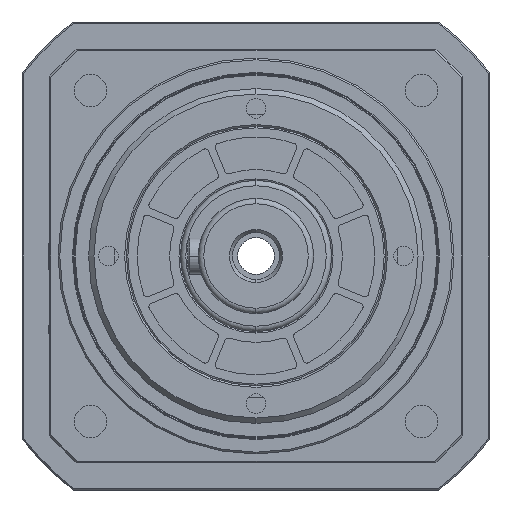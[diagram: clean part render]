
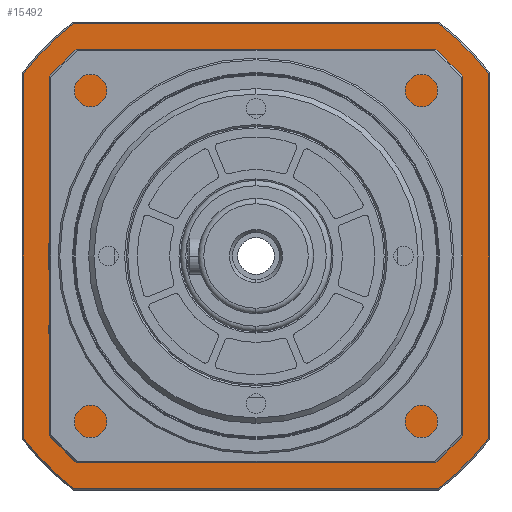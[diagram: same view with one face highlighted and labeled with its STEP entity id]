
A CAD part, left-side view. The second image highlights one B-rep face of the part: STEP entity #15492.
In plain terms, the highlighted planar face has unit normal (-1, 0, 0).
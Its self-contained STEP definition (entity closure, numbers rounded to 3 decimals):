
#59 = DIRECTION ( 'NONE',  ( 0., 0., -1. ) ) ;
#71 = CARTESIAN_POINT ( 'NONE',  ( 136., 0., 0. ) ) ;
#72 = DIRECTION ( 'NONE',  ( -1., 0., 0. ) ) ;
#73 = DIRECTION ( 'NONE',  ( 0., 0., -1. ) ) ;
#101 = CARTESIAN_POINT ( 'NONE',  ( 136., 0., 0. ) ) ;
#102 = DIRECTION ( 'NONE',  ( -1., 0., 0. ) ) ;
#402 = AXIS2_PLACEMENT_3D ( 'NONE', #9463, #9468, #9470 ) ;
#516 = AXIS2_PLACEMENT_3D ( 'NONE', #11625, #11623, #11649 ) ;
#650 = AXIS2_PLACEMENT_3D ( 'NONE', #71, #72, #73 ) ;
#669 = AXIS2_PLACEMENT_3D ( 'NONE', #101, #102, #59 ) ;
#802 = VECTOR ( 'NONE', #9475, 1000. ) ;
#806 = LINE ( 'NONE', #9480, #802 ) ;
#912 = CIRCLE ( 'NONE', #402, 82.1 ) ;
#2103 = DIRECTION ( 'NONE',  ( 0., -1., 0. ) ) ;
#2116 = CARTESIAN_POINT ( 'NONE',  ( 136., 39., -64.6 ) ) ;
#2375 = DIRECTION ( 'NONE',  ( 0., 0., -1. ) ) ;
#2376 = DIRECTION ( 'NONE',  ( 1., 0., 0. ) ) ;
#2377 = CARTESIAN_POINT ( 'NONE',  ( 136., 0., 0. ) ) ;
#2378 = DIRECTION ( 'NONE',  ( 0., 0., -1. ) ) ;
#2379 = CARTESIAN_POINT ( 'NONE',  ( 136., 64.6, 0. ) ) ;
#2393 = CARTESIAN_POINT ( 'NONE',  ( 136., 0., 0. ) ) ;
#2395 = DIRECTION ( 'NONE',  ( -1., 0., 0. ) ) ;
#2396 = DIRECTION ( 'NONE',  ( 0., 0., -1. ) ) ;
#3092 = AXIS2_PLACEMENT_3D ( 'NONE', #12491, #12493, #12492 ) ;
#3989 = ORIENTED_EDGE ( 'NONE', *, *, #12900, .T. ) ;
#3990 = ORIENTED_EDGE ( 'NONE', *, *, #13183, .T. ) ;
#4489 = ORIENTED_EDGE ( 'NONE', *, *, #9265, .T. ) ;
#4655 = ORIENTED_EDGE ( 'NONE', *, *, #12899, .T. ) ;
#4666 = ORIENTED_EDGE ( 'NONE', *, *, #9186, .T. ) ;
#4667 = ORIENTED_EDGE ( 'NONE', *, *, #12651, .T. ) ;
#4675 = ORIENTED_EDGE ( 'NONE', *, *, #13186, .T. ) ;
#4677 = ORIENTED_EDGE ( 'NONE', *, *, #9594, .T. ) ;
#4710 = ORIENTED_EDGE ( 'NONE', *, *, #9187, .T. ) ;
#4712 = ORIENTED_EDGE ( 'NONE', *, *, #9190, .T. ) ;
#5553 = EDGE_LOOP ( 'NONE', ( #4710, #4667 ) ) ;
#5755 = EDGE_LOOP ( 'NONE', ( #4666, #4712, #4489, #4655, #4677, #4675, #3989, #3990 ) ) ;
#7359 = AXIS2_PLACEMENT_3D ( 'NONE', #2393, #2395, #2396 ) ;
#7360 = AXIS2_PLACEMENT_3D ( 'NONE', #2377, #2376, #2375 ) ;
#7498 = CIRCLE ( 'NONE', #669, 82.1 ) ;
#7500 = CIRCLE ( 'NONE', #650, 82.1 ) ;
#7661 = FACE_OUTER_BOUND ( 'NONE', #5755, .T. ) ;
#8087 = FACE_BOUND ( 'NONE', #5553, .T. ) ;
#8297 = LINE ( 'NONE', #12166, #8299 ) ;
#8299 = VECTOR ( 'NONE', #12165, 1000. ) ;
#8547 = VECTOR ( 'NONE', #2103, 1000. ) ;
#8641 = CIRCLE ( 'NONE', #7359, 82.1 ) ;
#8643 = CIRCLE ( 'NONE', #7360, 39.4 ) ;
#8645 = VECTOR ( 'NONE', #2378, 1000. ) ;
#8648 = LINE ( 'NONE', #2379, #8645 ) ;
#8762 = LINE ( 'NONE', #2116, #8547 ) ;
#8905 = CIRCLE ( 'NONE', #516, 39.4 ) ;
#9186 = EDGE_CURVE ( 'NONE', #13777, #13900, #8648, .T. ) ;
#9187 = EDGE_CURVE ( 'NONE', #13754, #13875, #8643, .T. ) ;
#9190 = EDGE_CURVE ( 'NONE', #13900, #13853, #8641, .T. ) ;
#9265 = EDGE_CURVE ( 'NONE', #13853, #13804, #8762, .T. ) ;
#9463 = CARTESIAN_POINT ( 'NONE',  ( 136., 0., 0. ) ) ;
#9468 = DIRECTION ( 'NONE',  ( -1., 0., 0. ) ) ;
#9470 = DIRECTION ( 'NONE',  ( 0., 0., -1. ) ) ;
#9475 = DIRECTION ( 'NONE',  ( 0., 1., 0. ) ) ;
#9480 = CARTESIAN_POINT ( 'NONE',  ( 136., 39., 64.6 ) ) ;
#9594 = EDGE_CURVE ( 'NONE', #13801, #13906, #8297, .T. ) ;
#10024 = CARTESIAN_POINT ( 'NONE',  ( 136., 50.668, 64.6 ) ) ;
#10095 = CARTESIAN_POINT ( 'NONE',  ( 136., -64.6, 50.668 ) ) ;
#10104 = CARTESIAN_POINT ( 'NONE',  ( 136., -50.668, 64.6 ) ) ;
#10111 = CARTESIAN_POINT ( 'NONE',  ( 136., 0., 39.4 ) ) ;
#10126 = CARTESIAN_POINT ( 'NONE',  ( 136., 64.6, -50.668 ) ) ;
#10145 = CARTESIAN_POINT ( 'NONE',  ( 136., 50.668, -64.6 ) ) ;
#10185 = CARTESIAN_POINT ( 'NONE',  ( 136., -50.668, -64.6 ) ) ;
#10186 = CARTESIAN_POINT ( 'NONE',  ( 136., -64.6, -50.668 ) ) ;
#10214 = CARTESIAN_POINT ( 'NONE',  ( 136., 64.6, 50.668 ) ) ;
#10239 = CARTESIAN_POINT ( 'NONE',  ( 136., 0., -39.4 ) ) ;
#11623 = DIRECTION ( 'NONE',  ( 1., 0., 0. ) ) ;
#11625 = CARTESIAN_POINT ( 'NONE',  ( 136., 0., 0. ) ) ;
#11649 = DIRECTION ( 'NONE',  ( 0., 0., -1. ) ) ;
#12165 = DIRECTION ( 'NONE',  ( 0., 0., 1. ) ) ;
#12166 = CARTESIAN_POINT ( 'NONE',  ( 136., -64.6, 0. ) ) ;
#12489 = PLANE ( 'NONE',  #3092 ) ;
#12491 = CARTESIAN_POINT ( 'NONE',  ( 136., 39., 0. ) ) ;
#12492 = DIRECTION ( 'NONE',  ( 0., 0., -1. ) ) ;
#12493 = DIRECTION ( 'NONE',  ( 1., 0., 0. ) ) ;
#12651 = EDGE_CURVE ( 'NONE', #13875, #13754, #8905, .T. ) ;
#12899 = EDGE_CURVE ( 'NONE', #13804, #13801, #912, .T. ) ;
#12900 = EDGE_CURVE ( 'NONE', #13869, #13737, #806, .T. ) ;
#13183 = EDGE_CURVE ( 'NONE', #13737, #13777, #7498, .T. ) ;
#13186 = EDGE_CURVE ( 'NONE', #13906, #13869, #7500, .T. ) ;
#13737 = VERTEX_POINT ( 'NONE', #10024 ) ;
#13754 = VERTEX_POINT ( 'NONE', #10239 ) ;
#13777 = VERTEX_POINT ( 'NONE', #10214 ) ;
#13801 = VERTEX_POINT ( 'NONE', #10186 ) ;
#13804 = VERTEX_POINT ( 'NONE', #10185 ) ;
#13853 = VERTEX_POINT ( 'NONE', #10145 ) ;
#13869 = VERTEX_POINT ( 'NONE', #10104 ) ;
#13875 = VERTEX_POINT ( 'NONE', #10111 ) ;
#13900 = VERTEX_POINT ( 'NONE', #10126 ) ;
#13906 = VERTEX_POINT ( 'NONE', #10095 ) ;
#15492 = ADVANCED_FACE ( 'NONE', ( #8087, #7661 ), #12489, .F. ) ;
